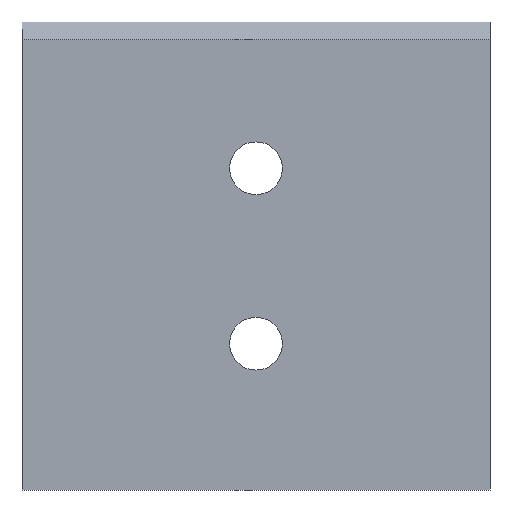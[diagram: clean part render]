
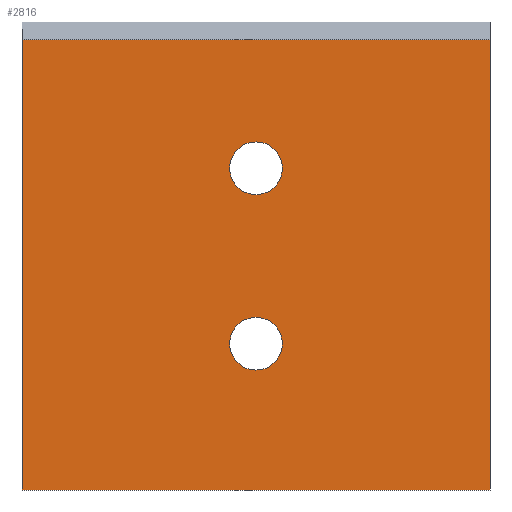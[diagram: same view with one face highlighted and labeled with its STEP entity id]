
A CAD part, front view. The second image highlights one B-rep face of the part: STEP entity #2816.
In plain terms, the highlighted planar face has unit normal (0, -1, 0).
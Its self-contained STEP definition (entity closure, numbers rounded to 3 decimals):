
#61 = VECTOR ( 'NONE', #3070, 1000. ) ;
#89 = VERTEX_POINT ( 'NONE', #1227 ) ;
#104 = VERTEX_POINT ( 'NONE', #682 ) ;
#165 = EDGE_CURVE ( 'NONE', #454, #1183, #1408, .T. ) ;
#197 = VERTEX_POINT ( 'NONE', #509 ) ;
#202 = FACE_BOUND ( 'NONE', #2410, .T. ) ;
#282 = FACE_BOUND ( 'NONE', #812, .T. ) ;
#286 = CARTESIAN_POINT ( 'NONE',  ( 44.5, 0., 55. ) ) ;
#341 = VECTOR ( 'NONE', #1250, 1000. ) ;
#379 = ORIENTED_EDGE ( 'NONE', *, *, #1640, .F. ) ;
#454 = VERTEX_POINT ( 'NONE', #1109 ) ;
#509 = CARTESIAN_POINT ( 'NONE',  ( 44.5, 0., 25. ) ) ;
#533 = CIRCLE ( 'NONE', #1497, 4.5 ) ;
#550 = ORIENTED_EDGE ( 'NONE', *, *, #165, .F. ) ;
#625 = ORIENTED_EDGE ( 'NONE', *, *, #2942, .F. ) ;
#670 = CARTESIAN_POINT ( 'NONE',  ( 80., 0., 38.5 ) ) ;
#682 = CARTESIAN_POINT ( 'NONE',  ( 0., 0., 0. ) ) ;
#751 = LINE ( 'NONE', #2854, #61 ) ;
#792 = VERTEX_POINT ( 'NONE', #2272 ) ;
#812 = EDGE_LOOP ( 'NONE', ( #1154, #550 ) ) ;
#855 = EDGE_CURVE ( 'NONE', #104, #2230, #751, .T. ) ;
#879 = EDGE_LOOP ( 'NONE', ( #964, #2266, #1523, #625 ) ) ;
#931 = CARTESIAN_POINT ( 'NONE',  ( 35.5, 0., 25. ) ) ;
#959 = CARTESIAN_POINT ( 'NONE',  ( 40., 0., 25. ) ) ;
#964 = ORIENTED_EDGE ( 'NONE', *, *, #1369, .T. ) ;
#981 = DIRECTION ( 'NONE',  ( 0., -1., 0. ) ) ;
#991 = DIRECTION ( 'NONE',  ( 1., 0., 0. ) ) ;
#1001 = LINE ( 'NONE', #1241, #341 ) ;
#1037 = DIRECTION ( 'NONE',  ( 0., 0., -1. ) ) ;
#1049 = VECTOR ( 'NONE', #1037, 1000. ) ;
#1086 = AXIS2_PLACEMENT_3D ( 'NONE', #2877, #1433, #2681 ) ;
#1109 = CARTESIAN_POINT ( 'NONE',  ( 35.5, 0., 55. ) ) ;
#1154 = ORIENTED_EDGE ( 'NONE', *, *, #1493, .F. ) ;
#1183 = VERTEX_POINT ( 'NONE', #286 ) ;
#1227 = CARTESIAN_POINT ( 'NONE',  ( 0., 0., 77. ) ) ;
#1241 = CARTESIAN_POINT ( 'NONE',  ( 40., 0., 77. ) ) ;
#1250 = DIRECTION ( 'NONE',  ( 1., 0., 0. ) ) ;
#1354 = EDGE_CURVE ( 'NONE', #792, #2230, #3033, .T. ) ;
#1369 = EDGE_CURVE ( 'NONE', #89, #104, #2951, .T. ) ;
#1408 = CIRCLE ( 'NONE', #1086, 4.5 ) ;
#1433 = DIRECTION ( 'NONE',  ( 0., -1., 0. ) ) ;
#1493 = EDGE_CURVE ( 'NONE', #1183, #454, #2734, .T. ) ;
#1497 = AXIS2_PLACEMENT_3D ( 'NONE', #959, #981, #991 ) ;
#1523 = ORIENTED_EDGE ( 'NONE', *, *, #1354, .F. ) ;
#1581 = EDGE_CURVE ( 'NONE', #2972, #197, #2655, .T. ) ;
#1640 = EDGE_CURVE ( 'NONE', #197, #2972, #533, .T. ) ;
#2159 = AXIS2_PLACEMENT_3D ( 'NONE', #3003, #3176, #3213 ) ;
#2165 = FACE_OUTER_BOUND ( 'NONE', #879, .T. ) ;
#2173 = DIRECTION ( 'NONE',  ( 1., 0., 0. ) ) ;
#2187 = CARTESIAN_POINT ( 'NONE',  ( 40., 0., 55. ) ) ;
#2189 = DIRECTION ( 'NONE',  ( 0., 0., -1. ) ) ;
#2200 = DIRECTION ( 'NONE',  ( 0., -1., 0. ) ) ;
#2207 = CARTESIAN_POINT ( 'NONE',  ( 0., 0., 80. ) ) ;
#2214 = DIRECTION ( 'NONE',  ( 0., -1., 0. ) ) ;
#2230 = VERTEX_POINT ( 'NONE', #3149 ) ;
#2266 = ORIENTED_EDGE ( 'NONE', *, *, #855, .T. ) ;
#2272 = CARTESIAN_POINT ( 'NONE',  ( 80., 0., 77. ) ) ;
#2321 = DIRECTION ( 'NONE',  ( 0., 0., -1. ) ) ;
#2387 = AXIS2_PLACEMENT_3D ( 'NONE', #2187, #2214, #2173 ) ;
#2410 = EDGE_LOOP ( 'NONE', ( #2463, #379 ) ) ;
#2463 = ORIENTED_EDGE ( 'NONE', *, *, #1581, .F. ) ;
#2644 = VECTOR ( 'NONE', #2321, 1000. ) ;
#2655 = CIRCLE ( 'NONE', #2159, 4.5 ) ;
#2681 = DIRECTION ( 'NONE',  ( 1., 0., 0. ) ) ;
#2734 = CIRCLE ( 'NONE', #2387, 4.5 ) ;
#2776 = PLANE ( 'NONE',  #3107 ) ;
#2816 = ADVANCED_FACE ( 'NONE', ( #2165, #202, #282 ), #2776, .T. ) ;
#2854 = CARTESIAN_POINT ( 'NONE',  ( 40., 0., 0. ) ) ;
#2877 = CARTESIAN_POINT ( 'NONE',  ( 40., 0., 55. ) ) ;
#2942 = EDGE_CURVE ( 'NONE', #89, #792, #1001, .T. ) ;
#2951 = LINE ( 'NONE', #3031, #1049 ) ;
#2972 = VERTEX_POINT ( 'NONE', #931 ) ;
#3003 = CARTESIAN_POINT ( 'NONE',  ( 40., 0., 25. ) ) ;
#3031 = CARTESIAN_POINT ( 'NONE',  ( 0., 0., 38.5 ) ) ;
#3033 = LINE ( 'NONE', #670, #2644 ) ;
#3070 = DIRECTION ( 'NONE',  ( 1., 0., 0. ) ) ;
#3107 = AXIS2_PLACEMENT_3D ( 'NONE', #2207, #2200, #2189 ) ;
#3149 = CARTESIAN_POINT ( 'NONE',  ( 80., 0., 0. ) ) ;
#3176 = DIRECTION ( 'NONE',  ( 0., -1., 0. ) ) ;
#3213 = DIRECTION ( 'NONE',  ( 1., 0., 0. ) ) ;
